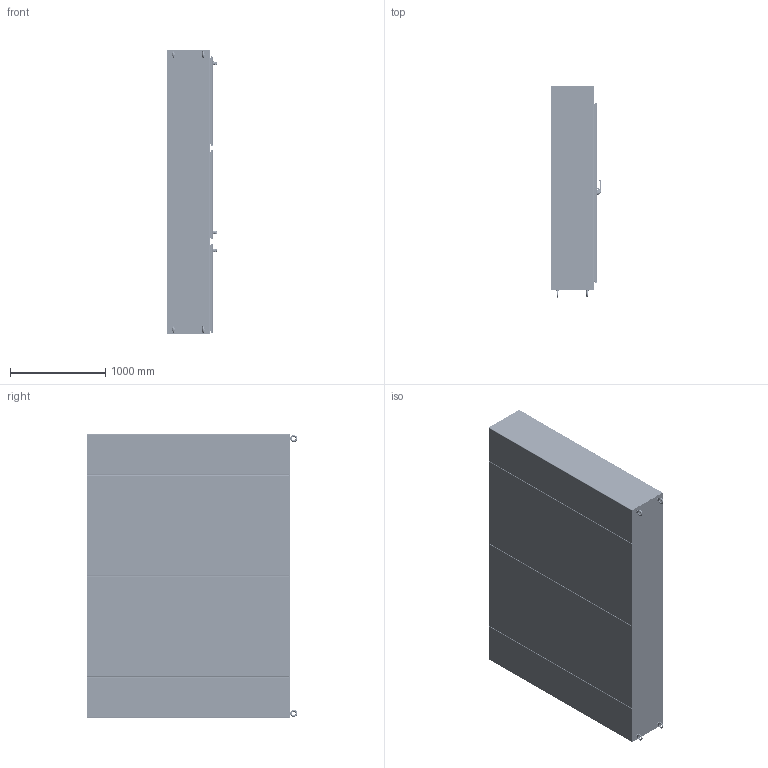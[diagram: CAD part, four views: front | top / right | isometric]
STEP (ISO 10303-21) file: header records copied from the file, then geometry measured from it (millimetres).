
FILE_DESCRIPTION((''),'2;1');
FILE_NAME('MODEL-219_ASM','2025-04-02T07:25:16',('andrew.knowlton'),('SAGINAW CONTROL & ENGINEERING'),'CREO PARAMETRIC BY PTC INC, 2021284','CREO PARAMETRIC BY PTC INC, 2021284','');
FILE_SCHEMA(('AUTOMOTIVE_DESIGN { 1 0 10303 214 1 1 1 1 }'));
Length unit declared in the file: inch
Products named in the file (161): MODEL-219-TP; MODEL-219-R-SD; MODEL-219-L-SD; MODEL-219-BTM; MODEL-219-R-BCK; MODEL-219-L-BCK; 128003; 100028; 128003_ASM; 127619; 127619_ASM; MODEL-219-RH-CCA-CHNL; MODEL-219-RH-CCA-STIF; 100062; 128004; 128007; 102535; 100057; MODEL-219-RH-CCASSY_ASM; MODEL-219-LH-CCA-CHNL; MODEL-219-LH-CCA-STIF; 127618; 127617; MODEL-219-LH-CCASSY_ASM; MODEL-219-M-DR; 100837; 111267; 100882; 100953_SCREW_MTG; 100953_PADLOCK_CATCH; 100953_SCREW_LARGE; 100953_INSERT_SHAFT; 100953_INSERT_PCH; 100953_GASKET; 100953_O-RING; 100953_BASE; 100953_SPRING; 100953_HANDLE; 100953_CAM_SHAFT; 100953_HANDLE_ASM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
Assembly tree (428 placements, depth 5):
  MODEL-219_ASM
    MODEL-219-TP
    MODEL-219-R-SD
    MODEL-219-L-SD
    MODEL-219-BTM
    MODEL-219-R-BCK
    MODEL-219-L-BCK
    128003_ASM  x2
      128003
      100028
    127619_ASM  x2
      127619
      100028
    MODEL-219-RH-CCASSY_ASM
      MODEL-219-RH-CCA-CHNL
      MODEL-219-RH-CCA-STIF
      100062  x2
      128004  x2
      128007  x2
      102535  x8
      100057  x2
    MODEL-219-LH-CCASSY_ASM
      MODEL-219-LH-CCA-CHNL
      MODEL-219-LH-CCA-STIF
      100062  x2
      127618  x2
      127617  x2
      102535  x8
    MODEL-219-M-DOOR-ASSY_ASM
      MODEL-219-M-DR
      100837  x7
      111267
      100882  x12
      100953_ASM
        100953_SCREW_MTG
        100953_PADLOCK_CATCH
        100953_SCREW_LARGE  x2
        100953_INSERT_SHAFT
        100953_INSERT_PCH
        100953_GASKET
        100953_O-RING
        100953_BASE
        100953_SPRING
        100953_HANDLE_ASM
          100953_HANDLE
          100953_CAM_SHAFT
        100953_CAM_ADAPTER
        100953_EARTH_NUT
        100953_FLANGE_NUT
        100953_CAM_NUT
        100953_CP_INSERT
        100953_SPRING_CAM
        100953_TORSION_SPRING
        100953_SCREW_INSERT
      102237_ASM
        102237
        100030  x2
      MODEL-219-ROD-UPR-MD_ASM
        MODEL-219-ROD-UPR-MD
        128146
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Bounding box: 535.27 x 2212.64 x 2984.5 mm (x, y, z)
Volume: 79813436.5 mm3; surface area: 52249134.3 mm2
Topology: 498 solids, 498 shells, 38504 faces, 97771 edges, 60227 vertices
Faces by surface type: plane 13597, cylinder 10096, bspline 8713, torus 2782, cone 2168, sphere 1058, extrusion 90
Entity records: 709120 total; most frequent: CARTESIAN_POINT 280556, ORIENTED_EDGE 65438, DIRECTION 60479, PRESENTATION_STYLE_ASSIGNMENT 32906, STYLED_ITEM 32877, CURVE_STYLE 32719, EDGE_CURVE 32719, AXIS2_PLACEMENT_3D 22297
